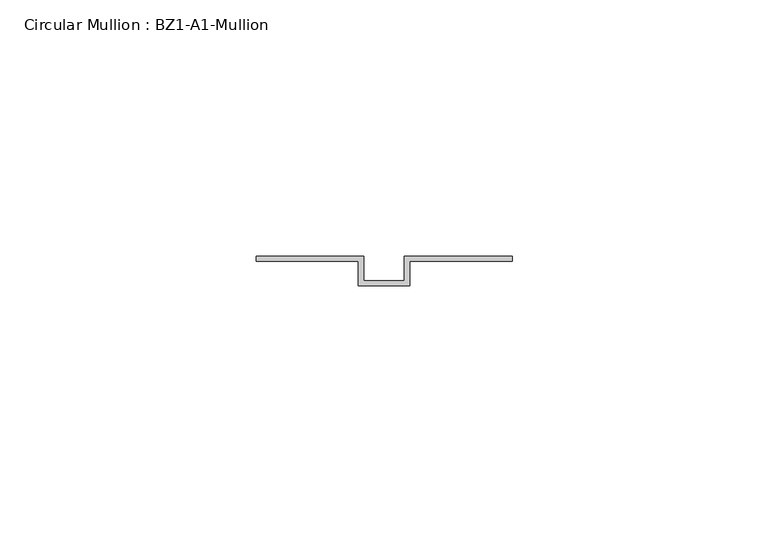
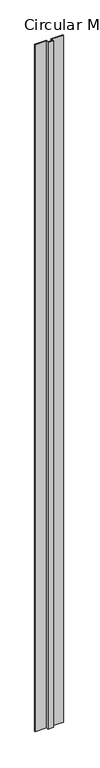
"""IFC4 building model written with IfcOpenShell, lengths in millimetres: member geometry, Circular Mullion : BZ1-A1-Mullion."""

from ifc_helpers import new_model, si_unit, frame, origin, place, context, project, spatial, polyline, outline, extrude, source, transform, mapped, element, save


def circular_mullion_bz1_a1_mullion_d469b72f(model_context):
    return source(origin(), model_context, "Body", "SweptSolid", [
        extrude(outline(polyline([(-25.0, 11.0), (-4.0, 11.0), (-4.0, 6.2), (4.0, 6.2), (4.0, 11.0), (25.0, 11.0), (25.0, 10.0), (5.0, 10.0), (5.0, 5.2), (-5.0, 5.2), (-5.0, 10.0), (-25.0, 10.0), (-25.0, 11.0)])), frame((0.0, 0.0, -1279.563298), z_axis=(0.0, 0.0, 1.0), x_axis=(1.0, 0.0, 0.0)), (0.0, 0.0, 1.0), 1279.563298),
    ])


if __name__ == "__main__":
    model = new_model("IFC4")
    model_context = context("Model", 3, world=origin())
    ifc_project = project(units=[si_unit("LENGTHUNIT", "METRE", prefix="MILLI")], contexts=[model_context])
    site = spatial("IfcSite", under=ifc_project)
    building = spatial("IfcBuilding", under=site)
    placement = place(None, origin())
    circular_mullion_bz1_a1_mullion_shape = circular_mullion_bz1_a1_mullion_d469b72f(model_context)
    element("IfcMember", 1, ObjectType="Circular Mullion : BZ1-A1-Mullion", at=placement, inside=building, context=model_context, shape_type="MappedRepresentation", body=[
        mapped(circular_mullion_bz1_a1_mullion_shape, transform((0.0, 0.0, 0.0), x_axis=(1.0, 0.0, 0.0), y_axis=(0.0, 1.0, 0.0), z_axis=(0.0, 0.0, 1.0))),
    ])
    save(model, "model.ifc")
